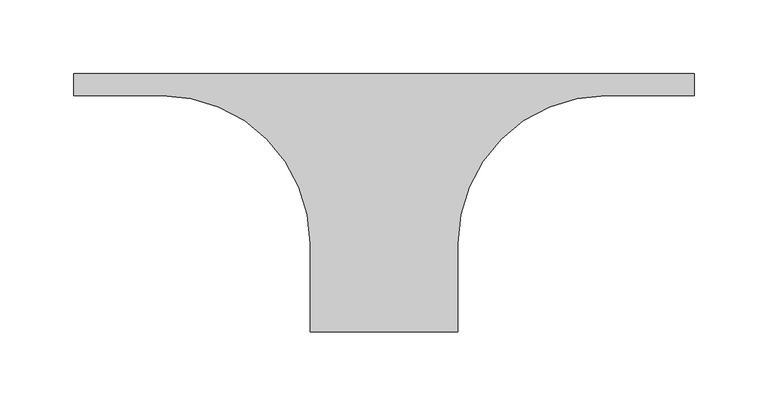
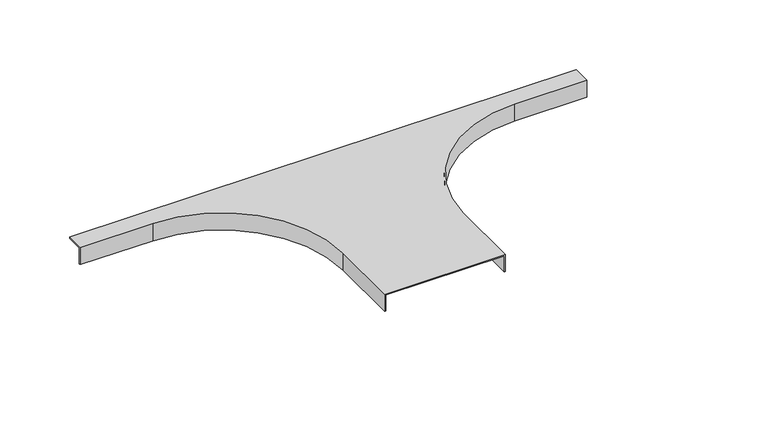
"""IFC4 building model written with IfcOpenShell, lengths in millimetres: proxy geometry, Cable_Tray_Cover_TAS_Basortray : Basortray TAS 100-GS."""

from ifc_helpers import new_model, si_unit, frame, origin, place, context, project, spatial, polyline, circle_curve, source, transform, mapped, element, save
from ifc_brep_helpers import plane_surface, cylinder_surface, revolved_surface, advanced_brep


def generic_models_e08e2e93(model_context):
    return source(origin(), model_context, "Body", "AdvancedBrep", [
        advanced_brep(
        [(210.0, 15.0, 1.0), (-210.0, 15.0, 1.0), (-210.0, 0.0, 1.0), (-150.0, 0.0, 1.0), (-50.0, -100.0, 1.0), (-50.0, -160.0, 1.0), (50.0, -160.0, 1.0), (50.0, -100.0, 1.0), (150.0, 0.0, 1.0), (210.0, 0.0, 1.0), (210.0, 0.0, -14.0), (150.0, 0.0, -14.0), (50.0, -100.0, -14.0), (50.0, -160.0, -14.0), (49.0, -160.0, -14.0), (49.0, -100.0, -14.0), (150.0, 1.0, -14.0), (210.0, 1.0, -14.0), (-50.0, -160.0, -14.0), (-50.0, -100.0, -14.0), (-150.0, 0.0, -14.0), (-210.0, 0.0, -14.0), (-210.0, 1.0, -14.0), (-150.0, 1.0, -14.0), (-49.0, -100.0, -14.0), (-49.0, -160.0, -14.0), (210.0, 15.0, 0.0), (-210.0, 15.0, 0.0), (-210.0, 1.0, 0.0), (-49.0, -160.0, 0.0), (49.0, -160.0, 0.0), (210.0, 1.0, 0.0), (150.0, 1.0, 0.0), (49.0, -100.0, 0.0), (-49.0, -100.0, 0.0), (-150.0, 1.0, 0.0)],
        [
            (0, 1),
            (1, 2),
            (2, 3),
            (3, 4, circle_curve(frame((-150.0, -100.0, 1.0), z_axis=(0.0, 0.0, -1.0), x_axis=(1.0, 0.0, 0.0)), 100.0)),
            (4, 5),
            (5, 6),
            (6, 7),
            (7, 8, circle_curve(frame((150.0, -100.0, 1.0), z_axis=(0.0, 0.0, -1.0), x_axis=(1.0, 0.0, 0.0)), 100.0)),
            (8, 9),
            (9, 0),
            (10, 11),
            (11, 12, circle_curve(frame((150.0, -100.0, -14.0), z_axis=(0.0, 0.0, 1.0), x_axis=(1.0, 0.0, 0.0)), 100.0)),
            (12, 13),
            (13, 14),
            (14, 15),
            (15, 16, circle_curve(frame((150.0, -100.0, -14.0), z_axis=(0.0, 0.0, -1.0), x_axis=(1.0, 0.0, 0.0)), 101.0)),
            (16, 17),
            (17, 10),
            (18, 19),
            (19, 20, circle_curve(frame((-150.0, -100.0, -14.0), z_axis=(0.0, 0.0, 1.0), x_axis=(1.0, 0.0, 0.0)), 100.0)),
            (20, 21),
            (21, 22),
            (22, 23),
            (23, 24, circle_curve(frame((-150.0, -100.0, -14.0), z_axis=(0.0, 0.0, -1.0), x_axis=(1.0, 0.0, 0.0)), 101.0)),
            (24, 25),
            (25, 18),
            (0, 26),
            (26, 27),
            (27, 1),
            (27, 28),
            (28, 22),
            (21, 2),
            (20, 3),
            (19, 4),
            (18, 5),
            (25, 29),
            (29, 30),
            (30, 14),
            (13, 6),
            (12, 7),
            (11, 8),
            (10, 9),
            (17, 31),
            (31, 26),
            (32, 33, circle_curve(frame((150.0, -100.0, 0.0), z_axis=(0.0, 0.0, 1.0), x_axis=(1.0, 0.0, 0.0)), 101.0)),
            (33, 30),
            (29, 34),
            (34, 35, circle_curve(frame((-150.0, -100.0, 0.0), z_axis=(0.0, 0.0, 1.0), x_axis=(1.0, 0.0, 0.0)), 101.0)),
            (35, 28),
            (31, 32),
            (35, 23),
            (34, 24),
            (33, 15),
            (32, 16),
        ],
        [
            plane_surface(frame((-210.0, 15.0, 1.0), z_axis=(0.0, 0.0, 1.0), x_axis=(-1.0, 0.0, 0.0))),
            plane_surface(frame((-210.0, 15.0, -14.0), z_axis=(0.0, 0.0, -1.0), x_axis=(1.0, 0.0, 0.0))),
            plane_surface(frame((210.0, 15.0, 1.0), z_axis=(0.0, 1.0, 0.0), x_axis=(0.0, 0.0, -1.0))),
            plane_surface(frame((-210.0, 15.0, 1.0), z_axis=(-1.0, 0.0, 0.0), x_axis=(0.0, 0.0, -1.0))),
            plane_surface(frame((-210.0, 0.0, 1.0), z_axis=(0.0, -1.0, 0.0), x_axis=(0.0, 0.0, -1.0))),
            revolved_surface(polyline([(-50.0, -100.0, -14.0), (-50.0, -100.0, 1.0)]), (-150.0, -100.0, -14.0), (0.0, 0.0, -1.0)),
            plane_surface(frame((-50.0, -100.0, 1.0), z_axis=(-1.0, 0.0, 0.0), x_axis=(0.0, 0.0, -1.0))),
            plane_surface(frame((-50.0, -160.0, 1.0), z_axis=(0.0, -1.0, 0.0), x_axis=(0.0, 0.0, -1.0))),
            plane_surface(frame((50.0, -160.0, 1.0), z_axis=(1.0, 0.0, 0.0), x_axis=(0.0, 0.0, -1.0))),
            revolved_surface(polyline([(250.0, -100.0, -14.0), (250.0, -100.0, 1.0)]), (150.0, -100.0, -14.0), (0.0, 0.0, -1.0)),
            plane_surface(frame((150.0, 0.0, 1.0), z_axis=(0.0, -1.0, 0.0), x_axis=(0.0, 0.0, -1.0))),
            plane_surface(frame((210.0, 0.0, 1.0), z_axis=(1.0, 0.0, 0.0), x_axis=(0.0, 0.0, -1.0))),
            plane_surface(frame((-209.0, 1.0, 0.0), z_axis=(0.0, 0.0, -1.0), x_axis=(1.0, 0.0, 0.0))),
            plane_surface(frame((-209.0, 1.0, 0.0), z_axis=(0.0, 1.0, 0.0), x_axis=(0.0, 0.0, -1.0))),
            cylinder_surface(frame((-150.0, -100.0, -14.0), z_axis=(0.0, 0.0, -1.0), x_axis=(1.0, 0.0, 0.0)), 101.0),
            plane_surface(frame((-49.0, -100.0, 0.0), z_axis=(1.0, 0.0, 0.0), x_axis=(0.0, 0.0, -1.0))),
            plane_surface(frame((49.0, -159.0, 0.0), z_axis=(-1.0, 0.0, 0.0), x_axis=(0.0, 0.0, -1.0))),
            cylinder_surface(frame((150.0, -100.0, -14.0), z_axis=(0.0, 0.0, -1.0), x_axis=(1.0, 0.0, 0.0)), 101.0),
            plane_surface(frame((150.0, 1.0, 0.0), z_axis=(0.0, 1.0, 0.0), x_axis=(0.0, 0.0, -1.0))),
        ],
        [
            (0, [[1, 2, 3, 4, 5, 6, 7, 8, 9, 10]]),
            (1, [[11, 12, 13, 14, 15, 16, 17, 18]]),
            (1, [[19, 20, 21, 22, 23, 24, 25, 26]]),
            (2, [[-1, 27, 28, 29]]),
            (3, [[-2, -29, 30, 31, -22, 32]]),
            (4, [[-3, -32, -21, 33]]),
            (5, [[-4, -33, -20, 34]]),
            (6, [[-5, -34, -19, 35]]),
            (7, [[-6, -35, -26, 36, 37, 38, -14, 39]]),
            (8, [[-7, -39, -13, 40]]),
            (9, [[-8, -40, -12, 41]]),
            (10, [[-9, -41, -11, 42]]),
            (11, [[-10, -42, -18, 43, 44, -27]]),
            (12, [[45, 46, -37, 47, 48, 49, -30, -28, -44, 50]]),
            (13, [[-49, 51, -23, -31]]),
            (14, [[-48, 52, -24, -51]]),
            (15, [[-47, -36, -25, -52]]),
            (16, [[-46, 53, -15, -38]]),
            (17, [[-45, 54, -16, -53]]),
            (18, [[-50, -43, -17, -54]]),
        ],
    ),
    ])


if __name__ == "__main__":
    model = new_model("IFC4")
    model_context = context("Model", 3, world=origin())
    ifc_project = project(units=[si_unit("LENGTHUNIT", "METRE", prefix="MILLI")], contexts=[model_context])
    site = spatial("IfcSite", under=ifc_project)
    building = spatial("IfcBuilding", under=site)
    placement = place(None, origin())
    generic_models_shape = generic_models_e08e2e93(model_context)
    element("IfcBuildingElementProxy", 1, Name="Cable_Tray_Cover_TAS_Basortray : Basortray TAS 100-GS", ObjectType="Cable_Tray_Cover_TAS_Basortray : Basortray TAS 100-GS", at=placement, inside=building, context=model_context, shape_type="MappedRepresentation", body=[
        mapped(generic_models_shape, transform((0.0, 0.0, 0.0), x_axis=(1.0, 0.0, 0.0), y_axis=(0.0, 1.0, 0.0), z_axis=(0.0, 0.0, 1.0))),
    ])
    save(model, "model.ifc")
